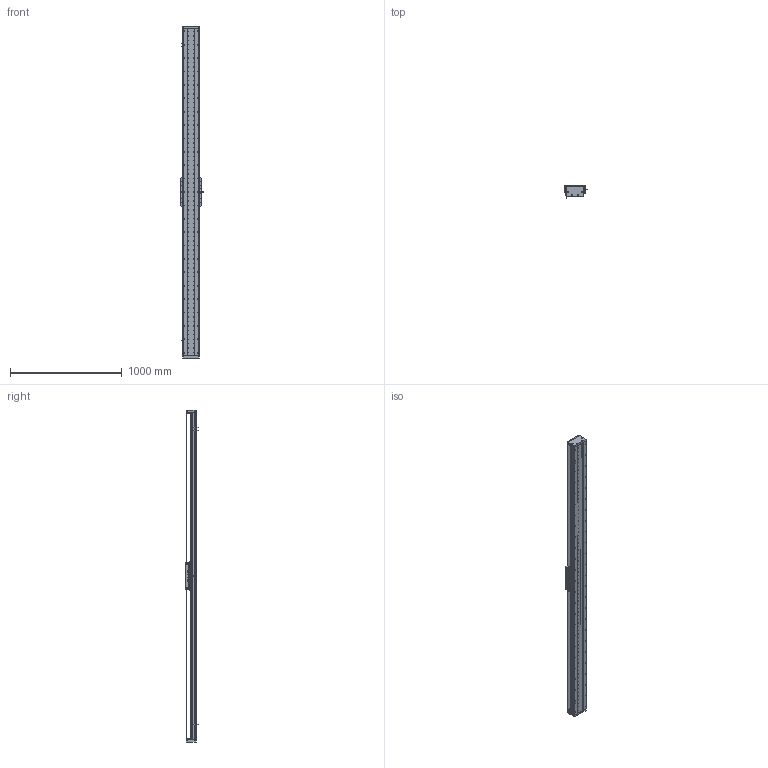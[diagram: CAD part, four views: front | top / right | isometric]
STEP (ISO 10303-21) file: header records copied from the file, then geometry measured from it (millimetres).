
FILE_DESCRIPTION (( 'STEP AP203' ), '1' );
FILE_NAME ('DA-C145-C3-T2640-C010-0.2 眻盄萇儂.STEP', '2025-08-14T01:34:23', ( '' ), ( '' ), 'SwSTEP 2.0', 'SolidWorks 2019', '' );
FILE_SCHEMA (( 'CONFIG_CONTROL_DESIGN' ));
Length unit declared in the file: millimetre
Products named in the file (32): 复件 半圆头内六角螺钉 M3×6^CU145-W 滚珠滑台; 葩璃 DA95-HXJ-00 遣喳砎蝶^DA-C145-C3-T-C010-0.2; 葩璃 PM-T45^DA-C145-C3-T-C010-0.2; 葩璃 CKM03-W060-C1C2-TP-0.2^DA-C145-C3-T-C010-0.2; 葩璃 DA145-C3-DP-A-00 菜えA^CU145-W 幗紩賑怢; 复件 纯铜油杯 6x6mm^CU145-W 滚珠滑台; 66245-CU145-HT-W-00 賑雄怢啣(3D芞祧)(00); 葩璃 DMA-010-0.2 黍杅芛^DA-C145-C3-T-C010-0.2; 复件 DA145-C3-YB-B-00 压板B^CU145-W 滚珠滑台; IU-CU145-L-00 菁釱(L2940); 复件 DA146 钢带拉块^复件 CU145 钢带组件_DA-C145-C3-T-C010-0.2; 复件 内六角平端紧定螺钉 GB.T77-2000 M5×10^CU145-W 滚珠滑台; CU145-W 幗紩賑怢; 葩璃 CU145 詩湍郪璃^DA-C145-C3-T-C010-0.2; TAY01-M8; 复件 DA146 钢带垫块^复件 CU145 钢带组件_DA-C145-C3-T-C010-0.2; 葩璃 鞠褒情蹟譫 M3^DA-C145-C3-T-C010-0.2; IU-CU145-L 菁釱絳寢; 复件 DA95-DB-00  挡板^CU145-W 滚珠滑台; 复件 DA95-MFP-01 密封片^CU145-W 滚珠滑台; 复件 DA95-HK-GT-00 滑块钢轨^CU145-W-00 一体化滑动台板; 复件 DA145-C3-YB-A-00 压板A^CU145-W 滚珠滑台; DA-C145-C3-T2640-C010-0.2 眻盄萇儂; CU145-W-00 珨极趙賑雄怢啣; 葩璃 CKMA01-W060-TRL^DA-C145-C3-T-C010-0.2; 复件 DA145-C3-DK-00 挡块^CU145-W 滚珠滑台; 复件 DA145 钢带^复件 CU145 钢带组件_DA-C145-C3-T-C010-0.2; 葩璃 DA145-C3-DP-B-00 菜えB^CU145-W 幗紩賑怢; 葩璃 XD-U-02L 棠掑喜^DA-C145-C3-T-C010-0.2; 复件 DA145-GYP-00 光电感应片^DA-C145-C3-T-C010-0.2; 葩璃 DA95-GT-T-00^IU-CU145-L 菁釱絳寢; 复件 DA145-DG 钢带端盖^复件 CU145 钢带组件_DA-C145-C3-T-C010-0.2
Assembly tree (103 placements, depth 4):
  DA-C145-C3-T2640-C010-0.2 眻盄萇儂
    IU-CU145-L 菁釱絳寢
      IU-CU145-L-00 菁釱(L2940)
      葩璃 DA95-GT-T-00^IU-CU145-L 菁釱絳寢  x4
    葩璃 CU145 詩湍郪璃^DA-C145-C3-T-C010-0.2
      复件 DA145-DG 钢带端盖^复件 CU145 钢带组件_DA-C145-C3-T-C010-0.2  x2
      复件 DA146 钢带拉块^复件 CU145 钢带组件_DA-C145-C3-T-C010-0.2  x2
      复件 DA146 钢带垫块^复件 CU145 钢带组件_DA-C145-C3-T-C010-0.2  x2
      复件 DA145 钢带^复件 CU145 钢带组件_DA-C145-C3-T-C010-0.2
    CU145-W 幗紩賑怢
      CU145-W-00 珨极趙賑雄怢啣
        66245-CU145-HT-W-00 賑雄怢啣(3D芞祧)(00)
        复件 DA95-HK-GT-00 滑块钢轨^CU145-W-00 一体化滑动台板  x8
      复件 DA95-MFP-01 密封片^CU145-W 滚珠滑台  x8
      复件 DA95-DB-00  挡板^CU145-W 滚珠滑台  x8
      复件 内六角平端紧定螺钉 GB.T77-2000 M5×10^CU145-W 滚珠滑台  x4
      复件 纯铜油杯 6x6mm^CU145-W 滚珠滑台  x4
      复件 半圆头内六角螺钉 M3×6^CU145-W 滚珠滑台  x16
      复件 DA145-C3-DK-00 挡块^CU145-W 滚珠滑台  x4
      葩璃 DA145-C3-DP-B-00 菜えB^CU145-W 幗紩賑怢  x2
      复件 DA145-C3-YB-B-00 压板B^CU145-W 滚珠滑台  x2
      葩璃 DA145-C3-DP-A-00 菜えA^CU145-W 幗紩賑怢  x3
      复件 DA145-C3-YB-A-00 压板A^CU145-W 滚珠滑台  x3
      TAY01-M8  x4
    葩璃 CKMA01-W060-TRL^DA-C145-C3-T-C010-0.2
    葩璃 PM-T45^DA-C145-C3-T-C010-0.2  x3
    葩璃 XD-U-02L 棠掑喜^DA-C145-C3-T-C010-0.2
    葩璃 DA95-HXJ-00 遣喳砎蝶^DA-C145-C3-T-C010-0.2  x4
    复件 DA145-GYP-00 光电感应片^DA-C145-C3-T-C010-0.2
    葩璃 DMA-010-0.2 黍杅芛^DA-C145-C3-T-C010-0.2
    葩璃 CKM03-W060-C1C2-TP-0.2^DA-C145-C3-T-C010-0.2
    葩璃 鞠褒情蹟譫 M3^DA-C145-C3-T-C010-0.2  x8
Bounding box: 203.5 x 108.45 x 2976 mm (x, y, z)
Volume: 13731791.1 mm3; surface area: 4620060.3 mm2
Topology: 99 solids, 131 shells, 4794 faces, 13868 edges, 8710 vertices
Faces by surface type: cylinder 2424, plane 1602, cone 690, torus 74, sphere 4
Entity records: 136422 total; most frequent: CARTESIAN_POINT 41664, ORIENTED_EDGE 19256, DIRECTION 18115, EDGE_CURVE 9628, AXIS2_PLACEMENT_3D 6812, VERTEX_POINT 6249, VECTOR 4491, LINE 4491
